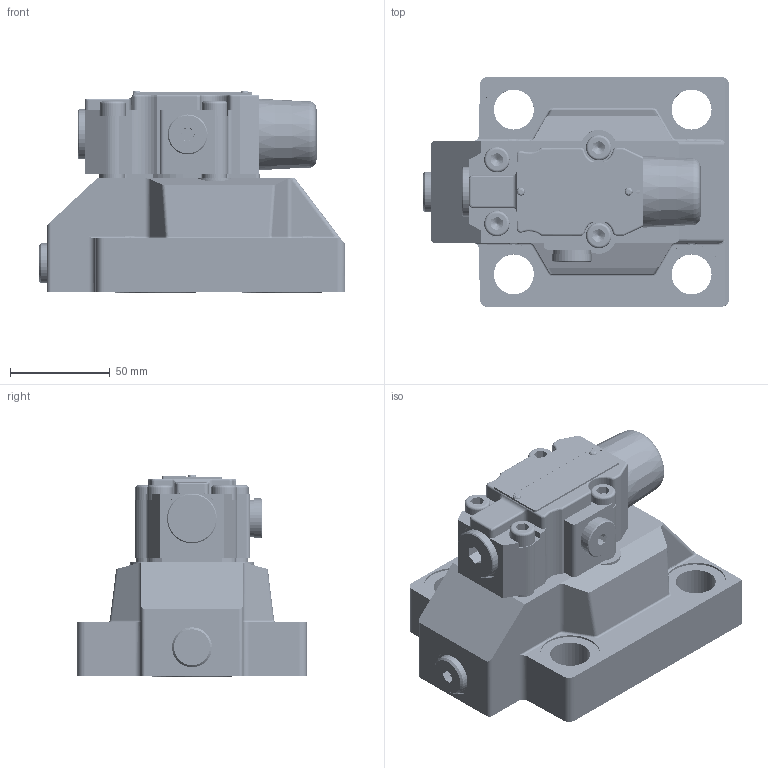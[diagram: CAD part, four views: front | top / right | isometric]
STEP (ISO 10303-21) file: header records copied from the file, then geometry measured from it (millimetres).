
FILE_DESCRIPTION(/* description */ (''),/* implementation_level */ '2;1');
FILE_NAME(/* name */ 'DB30-2-5XJ溢流阀.prt.stp',/* time_stamp */ '2022-03-30T20:09:22+08:00',/* author */ (''),/* organization */ (''),/* preprocessor_version */ 'ST-DEVELOPER v16.7',/* originating_system */ 'SIEMENS PLM Software NX 12.0',/* authorisation */ '');
FILE_SCHEMA (('AUTOMOTIVE_DESIGN { 1 0 10303 214 3 1 1 1 }'));
Products named in the file (1): DB30-2-5XJ溢流阀
Bounding box: 153.29 x 115 x 101.63 mm (x, y, z)
Volume: 784977.4 mm3; surface area: 130590.5 mm2
Topology: 22 solids, 28 shells, 715 faces, 1764 edges, 1125 vertices
Faces by surface type: plane 284, cylinder 276, bspline 75, cone 42, torus 29, extrusion 4, revolution 3, sphere 2
Full cylindrical faces by diameter (mm): 1.8 x4, 1.9 x2, 2 x1, 4.2 x10, 6 x2, 7 x49, 8 x1, 8.4 x4, 8.8 x1, 9.5 x1, 11 x1, 11.093 x1, 11.1 x1, 11.5 x7, 12.2 x3, 12.73 x4, 15.9 x1, 16 x1, 16.2 x2, 18.9 x1, 19 x1, 20 x6, 23 x1, 25 x1, 28 x1, 30 x5, 32 x2, 34.309 x1, 41 x2
Entity records: 88598 total; most frequent: CARTESIAN_POINT 72852, ORIENTED_EDGE 2794, DIRECTION 2754, EDGE_CURVE 1397, AXIS2_PLACEMENT_3D 1083, VERTEX_POINT 954, EDGE_LOOP 812, ADVANCED_FACE 649
